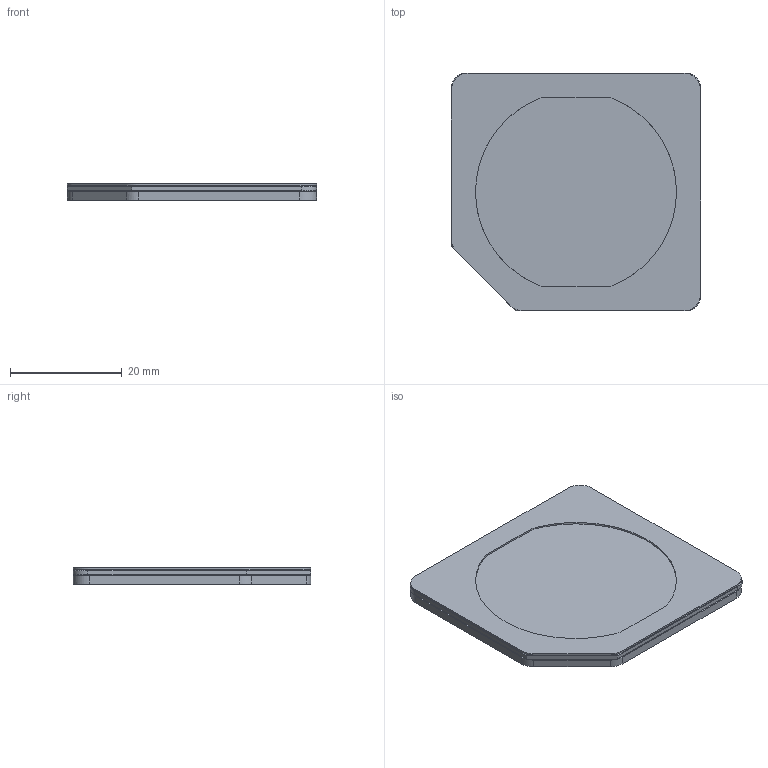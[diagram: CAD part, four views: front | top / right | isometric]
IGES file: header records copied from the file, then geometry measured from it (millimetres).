
Global section: file name: 153-13559_LPC Vxx S1-5 (VISOR 2 ErsatzscheibenSet); native system: Autodesk Inventor 2018; preprocessor: unknown; author: ss; date: 20190129.095726; units: millimetre
Bounding box: 44.6 x 42.6 x 2.9 mm (x, y, z)
Volume: 3491.1 mm3; surface area: 4422.2 mm2
Topology: 1 solids, 1 shells, 72 faces, 180 edges, 112 vertices
Faces by surface type: bspline 72
